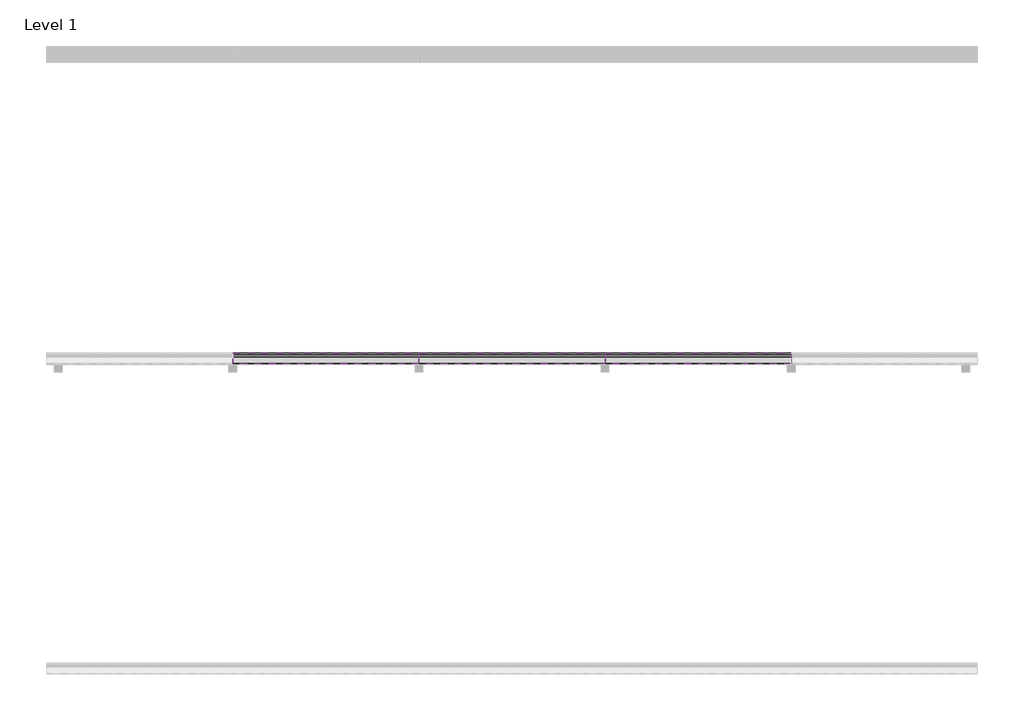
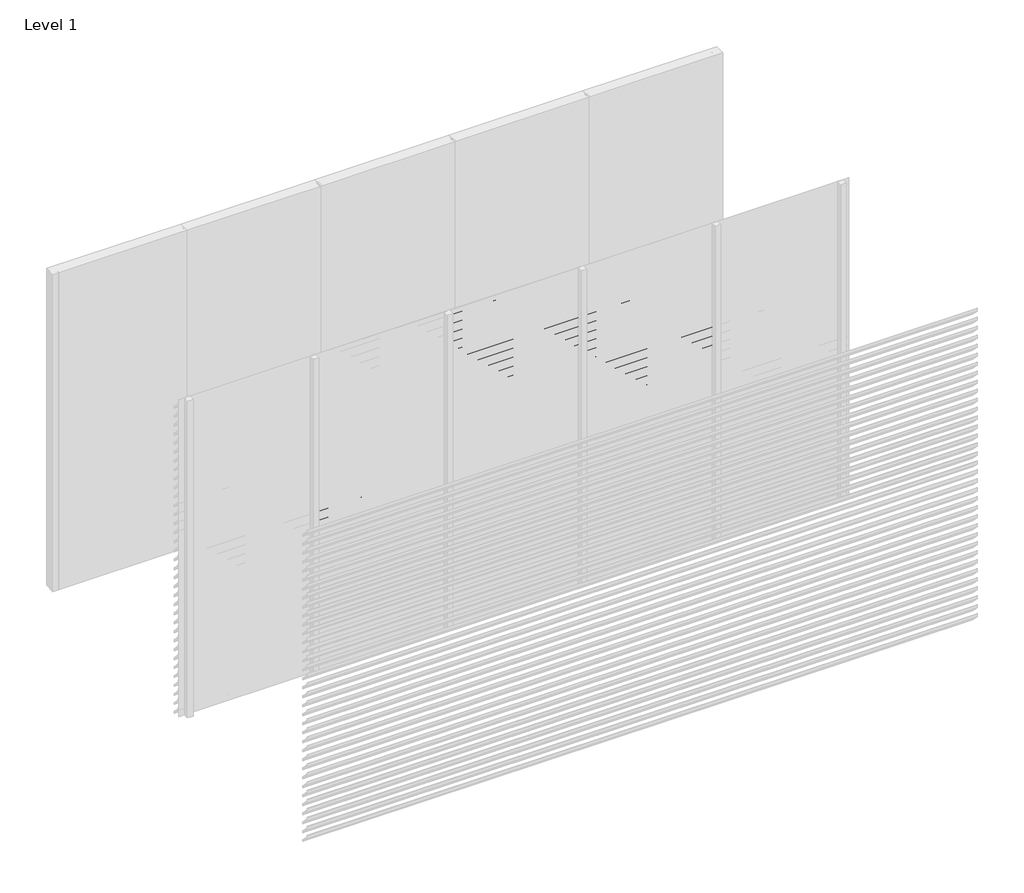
# One storey, part 5 of 10: 90 proxies.
"""IFC4 building model written with IfcOpenShell, lengths in millimetres."""

from ifc_helpers import new_model, si_unit, frame, origin, place, context, project, spatial, polyline, outline, extrude, element, save

model = new_model("IFC4")

# Units and contexts
model_context = context("Model", 3, world=origin())
ifc_project = project(units=[si_unit("LENGTHUNIT", "METRE", prefix="MILLI")], contexts=[model_context])

# Site, building, storey
site = spatial("IfcSite", under=ifc_project)
building = spatial("IfcBuilding", under=site)
storey = spatial("IfcBuildingStorey", under=building, Name="Level 1", Elevation=0.0)

# Proxies
placement = place(None, origin())
element("IfcBuildingElementProxy", 1, Name="Wall Sweeps", at=placement, inside=storey, context=model_context, shape_type="SweptSolid", body=[
    extrude(outline(polyline([(-11995.0, 2125.0), (-11995.0, 2112.0), (-11927.0, 2044.0), (-11927.0, 2026.0), (-11997.0, 2096.0), (-11997.0, 2125.0), (-11995.0, 2125.0)])), frame((1200.0, 0.0, 0.0), z_axis=(1.0, 0.0, 0.0), x_axis=(0.0, 1.0, 0.0)), (0.0, 0.0, 1.0), 1200.0),
])
element("IfcBuildingElementProxy", 2, Name="Wall Sweeps", at=placement, inside=storey, context=model_context, shape_type="SweptSolid", body=[
    extrude(outline(polyline([(-11995.0, 2040.0), (-11995.0, 2027.0), (-11927.0, 1959.0), (-11927.0, 1941.0), (-11997.0, 2011.0), (-11997.0, 2040.0), (-11995.0, 2040.0)])), frame((1200.0, 0.0, 0.0), z_axis=(1.0, 0.0, 0.0), x_axis=(0.0, 1.0, 0.0)), (0.0, 0.0, 1.0), 1200.0),
])
element("IfcBuildingElementProxy", 3, Name="Wall Sweeps", at=placement, inside=storey, context=model_context, shape_type="SweptSolid", body=[
    extrude(outline(polyline([(-11995.0, 1955.0), (-11995.0, 1942.0), (-11927.0, 1874.0), (-11927.0, 1856.0), (-11997.0, 1926.0), (-11997.0, 1955.0), (-11995.0, 1955.0)])), frame((1200.0, 0.0, 0.0), z_axis=(1.0, 0.0, 0.0), x_axis=(0.0, 1.0, 0.0)), (0.0, 0.0, 1.0), 1200.0),
])
element("IfcBuildingElementProxy", 4, Name="Wall Sweeps", at=placement, inside=storey, context=model_context, shape_type="SweptSolid", body=[
    extrude(outline(polyline([(-11995.0, 1870.0), (-11995.0, 1857.0), (-11927.0, 1789.0), (-11927.0, 1771.0), (-11997.0, 1841.0), (-11997.0, 1870.0), (-11995.0, 1870.0)])), frame((1200.0, 0.0, 0.0), z_axis=(1.0, 0.0, 0.0), x_axis=(0.0, 1.0, 0.0)), (0.0, 0.0, 1.0), 1200.0),
])
element("IfcBuildingElementProxy", 5, Name="Wall Sweeps", at=placement, inside=storey, context=model_context, shape_type="SweptSolid", body=[
    extrude(outline(polyline([(-11995.0, 1785.0), (-11995.0, 1772.0), (-11927.0, 1704.0), (-11927.0, 1686.0), (-11997.0, 1756.0), (-11997.0, 1785.0), (-11995.0, 1785.0)])), frame((1200.0, 0.0, 0.0), z_axis=(1.0, 0.0, 0.0), x_axis=(0.0, 1.0, 0.0)), (0.0, 0.0, 1.0), 1200.0),
])
element("IfcBuildingElementProxy", 6, Name="Wall Sweeps", at=placement, inside=storey, context=model_context, shape_type="SweptSolid", body=[
    extrude(outline(polyline([(-11995.0, 1700.0), (-11995.0, 1687.0), (-11927.0, 1619.0), (-11927.0, 1601.0), (-11997.0, 1671.0), (-11997.0, 1700.0), (-11995.0, 1700.0)])), frame((1200.0, 0.0, 0.0), z_axis=(1.0, 0.0, 0.0), x_axis=(0.0, 1.0, 0.0)), (0.0, 0.0, 1.0), 1200.0),
])
element("IfcBuildingElementProxy", 7, Name="Wall Sweeps", at=placement, inside=storey, context=model_context, shape_type="SweptSolid", body=[
    extrude(outline(polyline([(-11995.0, 1615.0), (-11995.0, 1602.0), (-11927.0, 1534.0), (-11927.0, 1516.0), (-11997.0, 1586.0), (-11997.0, 1615.0), (-11995.0, 1615.0)])), frame((1200.0, 0.0, 0.0), z_axis=(1.0, 0.0, 0.0), x_axis=(0.0, 1.0, 0.0)), (0.0, 0.0, 1.0), 1200.0),
])
element("IfcBuildingElementProxy", 8, Name="Wall Sweeps", at=placement, inside=storey, context=model_context, shape_type="SweptSolid", body=[
    extrude(outline(polyline([(-11995.0, 1530.0), (-11995.0, 1517.0), (-11927.0, 1449.0), (-11927.0, 1431.0), (-11997.0, 1501.0), (-11997.0, 1530.0), (-11995.0, 1530.0)])), frame((1200.0, 0.0, 0.0), z_axis=(1.0, 0.0, 0.0), x_axis=(0.0, 1.0, 0.0)), (0.0, 0.0, 1.0), 1200.0),
])
element("IfcBuildingElementProxy", 9, Name="Wall Sweeps", at=placement, inside=storey, context=model_context, shape_type="SweptSolid", body=[
    extrude(outline(polyline([(-11995.0, 1445.0), (-11995.0, 1432.0), (-11927.0, 1364.0), (-11927.0, 1346.0), (-11997.0, 1416.0), (-11997.0, 1445.0), (-11995.0, 1445.0)])), frame((1200.0, 0.0, 0.0), z_axis=(1.0, 0.0, 0.0), x_axis=(0.0, 1.0, 0.0)), (0.0, 0.0, 1.0), 1200.0),
])
element("IfcBuildingElementProxy", 10, Name="Wall Sweeps", at=placement, inside=storey, context=model_context, shape_type="SweptSolid", body=[
    extrude(outline(polyline([(-11995.0, 1360.0), (-11995.0, 1347.0), (-11927.0, 1279.0), (-11927.0, 1261.0), (-11997.0, 1331.0), (-11997.0, 1360.0), (-11995.0, 1360.0)])), frame((1200.0, 0.0, 0.0), z_axis=(1.0, 0.0, 0.0), x_axis=(0.0, 1.0, 0.0)), (0.0, 0.0, 1.0), 1200.0),
])
element("IfcBuildingElementProxy", 11, Name="Wall Sweeps", at=placement, inside=storey, context=model_context, shape_type="SweptSolid", body=[
    extrude(outline(polyline([(-11995.0, 1275.0), (-11995.0, 1262.0), (-11927.0, 1194.0), (-11927.0, 1176.0), (-11997.0, 1246.0), (-11997.0, 1275.0), (-11995.0, 1275.0)])), frame((1200.0, 0.0, 0.0), z_axis=(1.0, 0.0, 0.0), x_axis=(0.0, 1.0, 0.0)), (0.0, 0.0, 1.0), 1200.0),
])
element("IfcBuildingElementProxy", 12, Name="Wall Sweeps", at=placement, inside=storey, context=model_context, shape_type="SweptSolid", body=[
    extrude(outline(polyline([(-11995.0, 1190.0), (-11995.0, 1177.0), (-11927.0, 1109.0), (-11927.0, 1091.0), (-11997.0, 1161.0), (-11997.0, 1190.0), (-11995.0, 1190.0)])), frame((1200.0, 0.0, 0.0), z_axis=(1.0, 0.0, 0.0), x_axis=(0.0, 1.0, 0.0)), (0.0, 0.0, 1.0), 1200.0),
])
element("IfcBuildingElementProxy", 13, Name="Wall Sweeps", at=placement, inside=storey, context=model_context, shape_type="SweptSolid", body=[
    extrude(outline(polyline([(-11995.0, 1105.0), (-11995.0, 1092.0), (-11927.0, 1024.0), (-11927.0, 1006.0), (-11997.0, 1076.0), (-11997.0, 1105.0), (-11995.0, 1105.0)])), frame((1200.0, 0.0, 0.0), z_axis=(1.0, 0.0, 0.0), x_axis=(0.0, 1.0, 0.0)), (0.0, 0.0, 1.0), 1200.0),
])
element("IfcBuildingElementProxy", 14, Name="Wall Sweeps", at=placement, inside=storey, context=model_context, shape_type="SweptSolid", body=[
    extrude(outline(polyline([(-11995.0, 1020.0), (-11995.0, 1007.0), (-11927.0, 939.0), (-11927.0, 921.0), (-11997.0, 991.0), (-11997.0, 1020.0), (-11995.0, 1020.0)])), frame((1200.0, 0.0, 0.0), z_axis=(1.0, 0.0, 0.0), x_axis=(0.0, 1.0, 0.0)), (0.0, 0.0, 1.0), 1200.0),
])
element("IfcBuildingElementProxy", 15, Name="Wall Sweeps", at=placement, inside=storey, context=model_context, shape_type="SweptSolid", body=[
    extrude(outline(polyline([(-11995.0, 935.0), (-11995.0, 922.0), (-11927.0, 854.0), (-11927.0, 836.0), (-11997.0, 906.0), (-11997.0, 935.0), (-11995.0, 935.0)])), frame((1200.0, 0.0, 0.0), z_axis=(1.0, 0.0, 0.0), x_axis=(0.0, 1.0, 0.0)), (0.0, 0.0, 1.0), 1200.0),
])
element("IfcBuildingElementProxy", 16, Name="Wall Sweeps", at=placement, inside=storey, context=model_context, shape_type="SweptSolid", body=[
    extrude(outline(polyline([(-11995.0, 850.0), (-11995.0, 837.0), (-11927.0, 769.0), (-11927.0, 751.0), (-11997.0, 821.0), (-11997.0, 850.0), (-11995.0, 850.0)])), frame((1200.0, 0.0, 0.0), z_axis=(1.0, 0.0, 0.0), x_axis=(0.0, 1.0, 0.0)), (0.0, 0.0, 1.0), 1200.0),
])
element("IfcBuildingElementProxy", 17, Name="Wall Sweeps", at=placement, inside=storey, context=model_context, shape_type="SweptSolid", body=[
    extrude(outline(polyline([(-11995.0, 765.0), (-11995.0, 752.0), (-11927.0, 684.0), (-11927.0, 666.0), (-11997.0, 736.0), (-11997.0, 765.0), (-11995.0, 765.0)])), frame((1200.0, 0.0, 0.0), z_axis=(1.0, 0.0, 0.0), x_axis=(0.0, 1.0, 0.0)), (0.0, 0.0, 1.0), 1200.0),
])
element("IfcBuildingElementProxy", 18, Name="Wall Sweeps", at=placement, inside=storey, context=model_context, shape_type="SweptSolid", body=[
    extrude(outline(polyline([(-11995.0, 680.0), (-11995.0, 667.0), (-11927.0, 599.0), (-11927.0, 581.0), (-11997.0, 651.0), (-11997.0, 680.0), (-11995.0, 680.0)])), frame((1200.0, 0.0, 0.0), z_axis=(1.0, 0.0, 0.0), x_axis=(0.0, 1.0, 0.0)), (0.0, 0.0, 1.0), 1200.0),
])
element("IfcBuildingElementProxy", 19, Name="Wall Sweeps", at=placement, inside=storey, context=model_context, shape_type="SweptSolid", body=[
    extrude(outline(polyline([(-11995.0, 595.0), (-11995.0, 582.0), (-11927.0, 514.0), (-11927.0, 496.0), (-11997.0, 566.0), (-11997.0, 595.0), (-11995.0, 595.0)])), frame((1200.0, 0.0, 0.0), z_axis=(1.0, 0.0, 0.0), x_axis=(0.0, 1.0, 0.0)), (0.0, 0.0, 1.0), 1200.0),
])
element("IfcBuildingElementProxy", 20, Name="Wall Sweeps", at=placement, inside=storey, context=model_context, shape_type="SweptSolid", body=[
    extrude(outline(polyline([(-11995.0, 510.0), (-11995.0, 497.0), (-11927.0, 429.0), (-11927.0, 411.0), (-11997.0, 481.0), (-11997.0, 510.0), (-11995.0, 510.0)])), frame((1200.0, 0.0, 0.0), z_axis=(1.0, 0.0, 0.0), x_axis=(0.0, 1.0, 0.0)), (0.0, 0.0, 1.0), 1200.0),
])
element("IfcBuildingElementProxy", 21, Name="Wall Sweeps", at=placement, inside=storey, context=model_context, shape_type="SweptSolid", body=[
    extrude(outline(polyline([(-11995.0, 425.0), (-11995.0, 412.0), (-11927.0, 344.0), (-11927.0, 326.0), (-11997.0, 396.0), (-11997.0, 425.0), (-11995.0, 425.0)])), frame((1200.0, 0.0, 0.0), z_axis=(1.0, 0.0, 0.0), x_axis=(0.0, 1.0, 0.0)), (0.0, 0.0, 1.0), 1200.0),
])
element("IfcBuildingElementProxy", 22, Name="Wall Sweeps", at=placement, inside=storey, context=model_context, shape_type="SweptSolid", body=[
    extrude(outline(polyline([(-11995.0, 340.0), (-11995.0, 327.0), (-11927.0, 259.0), (-11927.0, 241.0), (-11997.0, 311.0), (-11997.0, 340.0), (-11995.0, 340.0)])), frame((1200.0, 0.0, 0.0), z_axis=(1.0, 0.0, 0.0), x_axis=(0.0, 1.0, 0.0)), (0.0, 0.0, 1.0), 1200.0),
])
element("IfcBuildingElementProxy", 23, Name="Wall Sweeps", at=placement, inside=storey, context=model_context, shape_type="SweptSolid", body=[
    extrude(outline(polyline([(-11995.0, 255.0), (-11995.0, 242.0), (-11927.0, 174.0), (-11927.0, 156.0), (-11997.0, 226.0), (-11997.0, 255.0), (-11995.0, 255.0)])), frame((1200.0, 0.0, 0.0), z_axis=(1.0, 0.0, 0.0), x_axis=(0.0, 1.0, 0.0)), (0.0, 0.0, 1.0), 1200.0),
])
element("IfcBuildingElementProxy", 24, Name="Wall Sweeps", at=placement, inside=storey, context=model_context, shape_type="SweptSolid", body=[
    extrude(outline(polyline([(-11995.0, 170.0), (-11995.0, 157.0), (-11927.0, 89.0), (-11927.0, 71.0), (-11997.0, 141.0), (-11997.0, 170.0), (-11995.0, 170.0)])), frame((1200.0, 0.0, 0.0), z_axis=(1.0, 0.0, 0.0), x_axis=(0.0, 1.0, 0.0)), (0.0, 0.0, 1.0), 1200.0),
])
element("IfcBuildingElementProxy", 25, Name="Wall Sweeps", at=placement, inside=storey, context=model_context, shape_type="SweptSolid", body=[
    extrude(outline(polyline([(-11995.0, 85.0), (-11995.0, 72.0), (-11927.0, 4.0), (-11927.0, -14.0), (-11997.0, 56.0), (-11997.0, 85.0), (-11995.0, 85.0)])), frame((1200.0, 0.0, 0.0), z_axis=(1.0, 0.0, 0.0), x_axis=(0.0, 1.0, 0.0)), (0.0, 0.0, 1.0), 1200.0),
])
element("IfcBuildingElementProxy", 26, Name="Wall Sweeps", at=placement, inside=storey, context=model_context, shape_type="SweptSolid", body=[
    extrude(outline(polyline([(-11995.0, 2975.0), (-11995.0, 2962.0), (-11927.0, 2894.0), (-11927.0, 2876.0), (-11997.0, 2946.0), (-11997.0, 2975.0), (-11995.0, 2975.0)])), frame((2400.0, 0.0, 0.0), z_axis=(1.0, 0.0, 0.0), x_axis=(0.0, 1.0, 0.0)), (0.0, 0.0, 1.0), 1200.0),
])
element("IfcBuildingElementProxy", 27, Name="Wall Sweeps", at=placement, inside=storey, context=model_context, shape_type="SweptSolid", body=[
    extrude(outline(polyline([(-11995.0, 2890.0), (-11995.0, 2877.0), (-11927.0, 2809.0), (-11927.0, 2791.0), (-11997.0, 2861.0), (-11997.0, 2890.0), (-11995.0, 2890.0)])), frame((2400.0, 0.0, 0.0), z_axis=(1.0, 0.0, 0.0), x_axis=(0.0, 1.0, 0.0)), (0.0, 0.0, 1.0), 1200.0),
])
element("IfcBuildingElementProxy", 28, Name="Wall Sweeps", at=placement, inside=storey, context=model_context, shape_type="SweptSolid", body=[
    extrude(outline(polyline([(-11995.0, 2805.0), (-11995.0, 2792.0), (-11927.0, 2724.0), (-11927.0, 2706.0), (-11997.0, 2776.0), (-11997.0, 2805.0), (-11995.0, 2805.0)])), frame((2400.0, 0.0, 0.0), z_axis=(1.0, 0.0, 0.0), x_axis=(0.0, 1.0, 0.0)), (0.0, 0.0, 1.0), 1200.0),
])
element("IfcBuildingElementProxy", 29, Name="Wall Sweeps", at=placement, inside=storey, context=model_context, shape_type="SweptSolid", body=[
    extrude(outline(polyline([(-11995.0, 2720.0), (-11995.0, 2707.0), (-11927.0, 2639.0), (-11927.0, 2621.0), (-11997.0, 2691.0), (-11997.0, 2720.0), (-11995.0, 2720.0)])), frame((2400.0, 0.0, 0.0), z_axis=(1.0, 0.0, 0.0), x_axis=(0.0, 1.0, 0.0)), (0.0, 0.0, 1.0), 1200.0),
])
element("IfcBuildingElementProxy", 30, Name="Wall Sweeps", at=placement, inside=storey, context=model_context, shape_type="SweptSolid", body=[
    extrude(outline(polyline([(-11995.0, 2635.0), (-11995.0, 2622.0), (-11927.0, 2554.0), (-11927.0, 2536.0), (-11997.0, 2606.0), (-11997.0, 2635.0), (-11995.0, 2635.0)])), frame((2400.0, 0.0, 0.0), z_axis=(1.0, 0.0, 0.0), x_axis=(0.0, 1.0, 0.0)), (0.0, 0.0, 1.0), 1200.0),
])
element("IfcBuildingElementProxy", 31, Name="Wall Sweeps", at=placement, inside=storey, context=model_context, shape_type="SweptSolid", body=[
    extrude(outline(polyline([(-11995.0, 2550.0), (-11995.0, 2537.0), (-11927.0, 2469.0), (-11927.0, 2451.0), (-11997.0, 2521.0), (-11997.0, 2550.0), (-11995.0, 2550.0)])), frame((2400.0, 0.0, 0.0), z_axis=(1.0, 0.0, 0.0), x_axis=(0.0, 1.0, 0.0)), (0.0, 0.0, 1.0), 1200.0),
])
element("IfcBuildingElementProxy", 32, Name="Wall Sweeps", at=placement, inside=storey, context=model_context, shape_type="SweptSolid", body=[
    extrude(outline(polyline([(-11995.0, 2465.0), (-11995.0, 2452.0), (-11927.0, 2384.0), (-11927.0, 2366.0), (-11997.0, 2436.0), (-11997.0, 2465.0), (-11995.0, 2465.0)])), frame((2400.0, 0.0, 0.0), z_axis=(1.0, 0.0, 0.0), x_axis=(0.0, 1.0, 0.0)), (0.0, 0.0, 1.0), 1200.0),
])
element("IfcBuildingElementProxy", 33, Name="Wall Sweeps", at=placement, inside=storey, context=model_context, shape_type="SweptSolid", body=[
    extrude(outline(polyline([(-11995.0, 2380.0), (-11995.0, 2367.0), (-11927.0, 2299.0), (-11927.0, 2281.0), (-11997.0, 2351.0), (-11997.0, 2380.0), (-11995.0, 2380.0)])), frame((2400.0, 0.0, 0.0), z_axis=(1.0, 0.0, 0.0), x_axis=(0.0, 1.0, 0.0)), (0.0, 0.0, 1.0), 1200.0),
])
element("IfcBuildingElementProxy", 34, Name="Wall Sweeps", at=placement, inside=storey, context=model_context, shape_type="SweptSolid", body=[
    extrude(outline(polyline([(-11995.0, 2295.0), (-11995.0, 2282.0), (-11927.0, 2214.0), (-11927.0, 2196.0), (-11997.0, 2266.0), (-11997.0, 2295.0), (-11995.0, 2295.0)])), frame((2400.0, 0.0, 0.0), z_axis=(1.0, 0.0, 0.0), x_axis=(0.0, 1.0, 0.0)), (0.0, 0.0, 1.0), 1200.0),
])
element("IfcBuildingElementProxy", 35, Name="Wall Sweeps", at=placement, inside=storey, context=model_context, shape_type="SweptSolid", body=[
    extrude(outline(polyline([(-11995.0, 2210.0), (-11995.0, 2197.0), (-11927.0, 2129.0), (-11927.0, 2111.0), (-11997.0, 2181.0), (-11997.0, 2210.0), (-11995.0, 2210.0)])), frame((2400.0, 0.0, 0.0), z_axis=(1.0, 0.0, 0.0), x_axis=(0.0, 1.0, 0.0)), (0.0, 0.0, 1.0), 1200.0),
])
element("IfcBuildingElementProxy", 36, Name="Wall Sweeps", at=placement, inside=storey, context=model_context, shape_type="SweptSolid", body=[
    extrude(outline(polyline([(-11995.0, 2125.0), (-11995.0, 2112.0), (-11927.0, 2044.0), (-11927.0, 2026.0), (-11997.0, 2096.0), (-11997.0, 2125.0), (-11995.0, 2125.0)])), frame((2400.0, 0.0, 0.0), z_axis=(1.0, 0.0, 0.0), x_axis=(0.0, 1.0, 0.0)), (0.0, 0.0, 1.0), 1200.0),
])
element("IfcBuildingElementProxy", 37, Name="Wall Sweeps", at=placement, inside=storey, context=model_context, shape_type="SweptSolid", body=[
    extrude(outline(polyline([(-11995.0, 2040.0), (-11995.0, 2027.0), (-11927.0, 1959.0), (-11927.0, 1941.0), (-11997.0, 2011.0), (-11997.0, 2040.0), (-11995.0, 2040.0)])), frame((2400.0, 0.0, 0.0), z_axis=(1.0, 0.0, 0.0), x_axis=(0.0, 1.0, 0.0)), (0.0, 0.0, 1.0), 1200.0),
])
element("IfcBuildingElementProxy", 38, Name="Wall Sweeps", at=placement, inside=storey, context=model_context, shape_type="SweptSolid", body=[
    extrude(outline(polyline([(-11995.0, 1955.0), (-11995.0, 1942.0), (-11927.0, 1874.0), (-11927.0, 1856.0), (-11997.0, 1926.0), (-11997.0, 1955.0), (-11995.0, 1955.0)])), frame((2400.0, 0.0, 0.0), z_axis=(1.0, 0.0, 0.0), x_axis=(0.0, 1.0, 0.0)), (0.0, 0.0, 1.0), 1200.0),
])
element("IfcBuildingElementProxy", 39, Name="Wall Sweeps", at=placement, inside=storey, context=model_context, shape_type="SweptSolid", body=[
    extrude(outline(polyline([(-11995.0, 1870.0), (-11995.0, 1857.0), (-11927.0, 1789.0), (-11927.0, 1771.0), (-11997.0, 1841.0), (-11997.0, 1870.0), (-11995.0, 1870.0)])), frame((2400.0, 0.0, 0.0), z_axis=(1.0, 0.0, 0.0), x_axis=(0.0, 1.0, 0.0)), (0.0, 0.0, 1.0), 1200.0),
])
element("IfcBuildingElementProxy", 40, Name="Wall Sweeps", at=placement, inside=storey, context=model_context, shape_type="SweptSolid", body=[
    extrude(outline(polyline([(-11995.0, 1785.0), (-11995.0, 1772.0), (-11927.0, 1704.0), (-11927.0, 1686.0), (-11997.0, 1756.0), (-11997.0, 1785.0), (-11995.0, 1785.0)])), frame((2400.0, 0.0, 0.0), z_axis=(1.0, 0.0, 0.0), x_axis=(0.0, 1.0, 0.0)), (0.0, 0.0, 1.0), 1200.0),
])
element("IfcBuildingElementProxy", 41, Name="Wall Sweeps", at=placement, inside=storey, context=model_context, shape_type="SweptSolid", body=[
    extrude(outline(polyline([(-11995.0, 1700.0), (-11995.0, 1687.0), (-11927.0, 1619.0), (-11927.0, 1601.0), (-11997.0, 1671.0), (-11997.0, 1700.0), (-11995.0, 1700.0)])), frame((2400.0, 0.0, 0.0), z_axis=(1.0, 0.0, 0.0), x_axis=(0.0, 1.0, 0.0)), (0.0, 0.0, 1.0), 1200.0),
])
element("IfcBuildingElementProxy", 42, Name="Wall Sweeps", at=placement, inside=storey, context=model_context, shape_type="SweptSolid", body=[
    extrude(outline(polyline([(-11995.0, 1615.0), (-11995.0, 1602.0), (-11927.0, 1534.0), (-11927.0, 1516.0), (-11997.0, 1586.0), (-11997.0, 1615.0), (-11995.0, 1615.0)])), frame((2400.0, 0.0, 0.0), z_axis=(1.0, 0.0, 0.0), x_axis=(0.0, 1.0, 0.0)), (0.0, 0.0, 1.0), 1200.0),
])
element("IfcBuildingElementProxy", 43, Name="Wall Sweeps", at=placement, inside=storey, context=model_context, shape_type="SweptSolid", body=[
    extrude(outline(polyline([(-11995.0, 1530.0), (-11995.0, 1517.0), (-11927.0, 1449.0), (-11927.0, 1431.0), (-11997.0, 1501.0), (-11997.0, 1530.0), (-11995.0, 1530.0)])), frame((2400.0, 0.0, 0.0), z_axis=(1.0, 0.0, 0.0), x_axis=(0.0, 1.0, 0.0)), (0.0, 0.0, 1.0), 1200.0),
])
element("IfcBuildingElementProxy", 44, Name="Wall Sweeps", at=placement, inside=storey, context=model_context, shape_type="SweptSolid", body=[
    extrude(outline(polyline([(-11995.0, 1445.0), (-11995.0, 1432.0), (-11927.0, 1364.0), (-11927.0, 1346.0), (-11997.0, 1416.0), (-11997.0, 1445.0), (-11995.0, 1445.0)])), frame((2400.0, 0.0, 0.0), z_axis=(1.0, 0.0, 0.0), x_axis=(0.0, 1.0, 0.0)), (0.0, 0.0, 1.0), 1200.0),
])
element("IfcBuildingElementProxy", 45, Name="Wall Sweeps", at=placement, inside=storey, context=model_context, shape_type="SweptSolid", body=[
    extrude(outline(polyline([(-11995.0, 1360.0), (-11995.0, 1347.0), (-11927.0, 1279.0), (-11927.0, 1261.0), (-11997.0, 1331.0), (-11997.0, 1360.0), (-11995.0, 1360.0)])), frame((2400.0, 0.0, 0.0), z_axis=(1.0, 0.0, 0.0), x_axis=(0.0, 1.0, 0.0)), (0.0, 0.0, 1.0), 1200.0),
])
element("IfcBuildingElementProxy", 46, Name="Wall Sweeps", at=placement, inside=storey, context=model_context, shape_type="SweptSolid", body=[
    extrude(outline(polyline([(-11995.0, 1275.0), (-11995.0, 1262.0), (-11927.0, 1194.0), (-11927.0, 1176.0), (-11997.0, 1246.0), (-11997.0, 1275.0), (-11995.0, 1275.0)])), frame((2400.0, 0.0, 0.0), z_axis=(1.0, 0.0, 0.0), x_axis=(0.0, 1.0, 0.0)), (0.0, 0.0, 1.0), 1200.0),
])
element("IfcBuildingElementProxy", 47, Name="Wall Sweeps", at=placement, inside=storey, context=model_context, shape_type="SweptSolid", body=[
    extrude(outline(polyline([(-11995.0, 1190.0), (-11995.0, 1177.0), (-11927.0, 1109.0), (-11927.0, 1091.0), (-11997.0, 1161.0), (-11997.0, 1190.0), (-11995.0, 1190.0)])), frame((2400.0, 0.0, 0.0), z_axis=(1.0, 0.0, 0.0), x_axis=(0.0, 1.0, 0.0)), (0.0, 0.0, 1.0), 1200.0),
])
element("IfcBuildingElementProxy", 48, Name="Wall Sweeps", at=placement, inside=storey, context=model_context, shape_type="SweptSolid", body=[
    extrude(outline(polyline([(-11995.0, 1105.0), (-11995.0, 1092.0), (-11927.0, 1024.0), (-11927.0, 1006.0), (-11997.0, 1076.0), (-11997.0, 1105.0), (-11995.0, 1105.0)])), frame((2400.0, 0.0, 0.0), z_axis=(1.0, 0.0, 0.0), x_axis=(0.0, 1.0, 0.0)), (0.0, 0.0, 1.0), 1200.0),
])
element("IfcBuildingElementProxy", 49, Name="Wall Sweeps", at=placement, inside=storey, context=model_context, shape_type="SweptSolid", body=[
    extrude(outline(polyline([(-11995.0, 1020.0), (-11995.0, 1007.0), (-11927.0, 939.0), (-11927.0, 921.0), (-11997.0, 991.0), (-11997.0, 1020.0), (-11995.0, 1020.0)])), frame((2400.0, 0.0, 0.0), z_axis=(1.0, 0.0, 0.0), x_axis=(0.0, 1.0, 0.0)), (0.0, 0.0, 1.0), 1200.0),
])
element("IfcBuildingElementProxy", 50, Name="Wall Sweeps", at=placement, inside=storey, context=model_context, shape_type="SweptSolid", body=[
    extrude(outline(polyline([(-11995.0, 935.0), (-11995.0, 922.0), (-11927.0, 854.0), (-11927.0, 836.0), (-11997.0, 906.0), (-11997.0, 935.0), (-11995.0, 935.0)])), frame((2400.0, 0.0, 0.0), z_axis=(1.0, 0.0, 0.0), x_axis=(0.0, 1.0, 0.0)), (0.0, 0.0, 1.0), 1200.0),
])
element("IfcBuildingElementProxy", 51, Name="Wall Sweeps", at=placement, inside=storey, context=model_context, shape_type="SweptSolid", body=[
    extrude(outline(polyline([(-11995.0, 850.0), (-11995.0, 837.0), (-11927.0, 769.0), (-11927.0, 751.0), (-11997.0, 821.0), (-11997.0, 850.0), (-11995.0, 850.0)])), frame((2400.0, 0.0, 0.0), z_axis=(1.0, 0.0, 0.0), x_axis=(0.0, 1.0, 0.0)), (0.0, 0.0, 1.0), 1200.0),
])
element("IfcBuildingElementProxy", 52, Name="Wall Sweeps", at=placement, inside=storey, context=model_context, shape_type="SweptSolid", body=[
    extrude(outline(polyline([(-11995.0, 765.0), (-11995.0, 752.0), (-11927.0, 684.0), (-11927.0, 666.0), (-11997.0, 736.0), (-11997.0, 765.0), (-11995.0, 765.0)])), frame((2400.0, 0.0, 0.0), z_axis=(1.0, 0.0, 0.0), x_axis=(0.0, 1.0, 0.0)), (0.0, 0.0, 1.0), 1200.0),
])
element("IfcBuildingElementProxy", 53, Name="Wall Sweeps", at=placement, inside=storey, context=model_context, shape_type="SweptSolid", body=[
    extrude(outline(polyline([(-11995.0, 680.0), (-11995.0, 667.0), (-11927.0, 599.0), (-11927.0, 581.0), (-11997.0, 651.0), (-11997.0, 680.0), (-11995.0, 680.0)])), frame((2400.0, 0.0, 0.0), z_axis=(1.0, 0.0, 0.0), x_axis=(0.0, 1.0, 0.0)), (0.0, 0.0, 1.0), 1200.0),
])
element("IfcBuildingElementProxy", 54, Name="Wall Sweeps", at=placement, inside=storey, context=model_context, shape_type="SweptSolid", body=[
    extrude(outline(polyline([(-11995.0, 595.0), (-11995.0, 582.0), (-11927.0, 514.0), (-11927.0, 496.0), (-11997.0, 566.0), (-11997.0, 595.0), (-11995.0, 595.0)])), frame((2400.0, 0.0, 0.0), z_axis=(1.0, 0.0, 0.0), x_axis=(0.0, 1.0, 0.0)), (0.0, 0.0, 1.0), 1200.0),
])
element("IfcBuildingElementProxy", 55, Name="Wall Sweeps", at=placement, inside=storey, context=model_context, shape_type="SweptSolid", body=[
    extrude(outline(polyline([(-11995.0, 510.0), (-11995.0, 497.0), (-11927.0, 429.0), (-11927.0, 411.0), (-11997.0, 481.0), (-11997.0, 510.0), (-11995.0, 510.0)])), frame((2400.0, 0.0, 0.0), z_axis=(1.0, 0.0, 0.0), x_axis=(0.0, 1.0, 0.0)), (0.0, 0.0, 1.0), 1200.0),
])
element("IfcBuildingElementProxy", 56, Name="Wall Sweeps", at=placement, inside=storey, context=model_context, shape_type="SweptSolid", body=[
    extrude(outline(polyline([(-11995.0, 425.0), (-11995.0, 412.0), (-11927.0, 344.0), (-11927.0, 326.0), (-11997.0, 396.0), (-11997.0, 425.0), (-11995.0, 425.0)])), frame((2400.0, 0.0, 0.0), z_axis=(1.0, 0.0, 0.0), x_axis=(0.0, 1.0, 0.0)), (0.0, 0.0, 1.0), 1200.0),
])
element("IfcBuildingElementProxy", 57, Name="Wall Sweeps", at=placement, inside=storey, context=model_context, shape_type="SweptSolid", body=[
    extrude(outline(polyline([(-11995.0, 340.0), (-11995.0, 327.0), (-11927.0, 259.0), (-11927.0, 241.0), (-11997.0, 311.0), (-11997.0, 340.0), (-11995.0, 340.0)])), frame((2400.0, 0.0, 0.0), z_axis=(1.0, 0.0, 0.0), x_axis=(0.0, 1.0, 0.0)), (0.0, 0.0, 1.0), 1200.0),
])
element("IfcBuildingElementProxy", 58, Name="Wall Sweeps", at=placement, inside=storey, context=model_context, shape_type="SweptSolid", body=[
    extrude(outline(polyline([(-11995.0, 255.0), (-11995.0, 242.0), (-11927.0, 174.0), (-11927.0, 156.0), (-11997.0, 226.0), (-11997.0, 255.0), (-11995.0, 255.0)])), frame((2400.0, 0.0, 0.0), z_axis=(1.0, 0.0, 0.0), x_axis=(0.0, 1.0, 0.0)), (0.0, 0.0, 1.0), 1200.0),
])
element("IfcBuildingElementProxy", 59, Name="Wall Sweeps", at=placement, inside=storey, context=model_context, shape_type="SweptSolid", body=[
    extrude(outline(polyline([(-11995.0, 170.0), (-11995.0, 157.0), (-11927.0, 89.0), (-11927.0, 71.0), (-11997.0, 141.0), (-11997.0, 170.0), (-11995.0, 170.0)])), frame((2400.0, 0.0, 0.0), z_axis=(1.0, 0.0, 0.0), x_axis=(0.0, 1.0, 0.0)), (0.0, 0.0, 1.0), 1200.0),
])
element("IfcBuildingElementProxy", 60, Name="Wall Sweeps", at=placement, inside=storey, context=model_context, shape_type="SweptSolid", body=[
    extrude(outline(polyline([(-11995.0, 85.0), (-11995.0, 72.0), (-11927.0, 4.0), (-11927.0, -14.0), (-11997.0, 56.0), (-11997.0, 85.0), (-11995.0, 85.0)])), frame((2400.0, 0.0, 0.0), z_axis=(1.0, 0.0, 0.0), x_axis=(0.0, 1.0, 0.0)), (0.0, 0.0, 1.0), 1200.0),
])
element("IfcBuildingElementProxy", 61, Name="Wall Sweeps", at=placement, inside=storey, context=model_context, shape_type="SweptSolid", body=[
    extrude(outline(polyline([(-11995.0, 2975.0), (-11995.0, 2962.0), (-11927.0, 2894.0), (-11927.0, 2876.0), (-11997.0, 2946.0), (-11997.0, 2975.0), (-11995.0, 2975.0)])), frame((3600.0, 0.0, 0.0), z_axis=(1.0, 0.0, 0.0), x_axis=(0.0, 1.0, 0.0)), (0.0, 0.0, 1.0), 1200.0),
])
element("IfcBuildingElementProxy", 62, Name="Wall Sweeps", at=placement, inside=storey, context=model_context, shape_type="SweptSolid", body=[
    extrude(outline(polyline([(-11995.0, 2890.0), (-11995.0, 2877.0), (-11927.0, 2809.0), (-11927.0, 2791.0), (-11997.0, 2861.0), (-11997.0, 2890.0), (-11995.0, 2890.0)])), frame((3600.0, 0.0, 0.0), z_axis=(1.0, 0.0, 0.0), x_axis=(0.0, 1.0, 0.0)), (0.0, 0.0, 1.0), 1200.0),
])
element("IfcBuildingElementProxy", 63, Name="Wall Sweeps", at=placement, inside=storey, context=model_context, shape_type="SweptSolid", body=[
    extrude(outline(polyline([(-11995.0, 2805.0), (-11995.0, 2792.0), (-11927.0, 2724.0), (-11927.0, 2706.0), (-11997.0, 2776.0), (-11997.0, 2805.0), (-11995.0, 2805.0)])), frame((3600.0, 0.0, 0.0), z_axis=(1.0, 0.0, 0.0), x_axis=(0.0, 1.0, 0.0)), (0.0, 0.0, 1.0), 1200.0),
])
element("IfcBuildingElementProxy", 64, Name="Wall Sweeps", at=placement, inside=storey, context=model_context, shape_type="SweptSolid", body=[
    extrude(outline(polyline([(-11995.0, 2720.0), (-11995.0, 2707.0), (-11927.0, 2639.0), (-11927.0, 2621.0), (-11997.0, 2691.0), (-11997.0, 2720.0), (-11995.0, 2720.0)])), frame((3600.0, 0.0, 0.0), z_axis=(1.0, 0.0, 0.0), x_axis=(0.0, 1.0, 0.0)), (0.0, 0.0, 1.0), 1200.0),
])
element("IfcBuildingElementProxy", 65, Name="Wall Sweeps", at=placement, inside=storey, context=model_context, shape_type="SweptSolid", body=[
    extrude(outline(polyline([(-11995.0, 2635.0), (-11995.0, 2622.0), (-11927.0, 2554.0), (-11927.0, 2536.0), (-11997.0, 2606.0), (-11997.0, 2635.0), (-11995.0, 2635.0)])), frame((3600.0, 0.0, 0.0), z_axis=(1.0, 0.0, 0.0), x_axis=(0.0, 1.0, 0.0)), (0.0, 0.0, 1.0), 1200.0),
])
element("IfcBuildingElementProxy", 66, Name="Wall Sweeps", at=placement, inside=storey, context=model_context, shape_type="SweptSolid", body=[
    extrude(outline(polyline([(-11995.0, 2550.0), (-11995.0, 2537.0), (-11927.0, 2469.0), (-11927.0, 2451.0), (-11997.0, 2521.0), (-11997.0, 2550.0), (-11995.0, 2550.0)])), frame((3600.0, 0.0, 0.0), z_axis=(1.0, 0.0, 0.0), x_axis=(0.0, 1.0, 0.0)), (0.0, 0.0, 1.0), 1200.0),
])
element("IfcBuildingElementProxy", 67, Name="Wall Sweeps", at=placement, inside=storey, context=model_context, shape_type="SweptSolid", body=[
    extrude(outline(polyline([(-11995.0, 2465.0), (-11995.0, 2452.0), (-11927.0, 2384.0), (-11927.0, 2366.0), (-11997.0, 2436.0), (-11997.0, 2465.0), (-11995.0, 2465.0)])), frame((3600.0, 0.0, 0.0), z_axis=(1.0, 0.0, 0.0), x_axis=(0.0, 1.0, 0.0)), (0.0, 0.0, 1.0), 1200.0),
])
element("IfcBuildingElementProxy", 68, Name="Wall Sweeps", at=placement, inside=storey, context=model_context, shape_type="SweptSolid", body=[
    extrude(outline(polyline([(-11995.0, 2380.0), (-11995.0, 2367.0), (-11927.0, 2299.0), (-11927.0, 2281.0), (-11997.0, 2351.0), (-11997.0, 2380.0), (-11995.0, 2380.0)])), frame((3600.0, 0.0, 0.0), z_axis=(1.0, 0.0, 0.0), x_axis=(0.0, 1.0, 0.0)), (0.0, 0.0, 1.0), 1200.0),
])
element("IfcBuildingElementProxy", 69, Name="Wall Sweeps", at=placement, inside=storey, context=model_context, shape_type="SweptSolid", body=[
    extrude(outline(polyline([(-11995.0, 2295.0), (-11995.0, 2282.0), (-11927.0, 2214.0), (-11927.0, 2196.0), (-11997.0, 2266.0), (-11997.0, 2295.0), (-11995.0, 2295.0)])), frame((3600.0, 0.0, 0.0), z_axis=(1.0, 0.0, 0.0), x_axis=(0.0, 1.0, 0.0)), (0.0, 0.0, 1.0), 1200.0),
])
element("IfcBuildingElementProxy", 70, Name="Wall Sweeps", at=placement, inside=storey, context=model_context, shape_type="SweptSolid", body=[
    extrude(outline(polyline([(-11995.0, 2210.0), (-11995.0, 2197.0), (-11927.0, 2129.0), (-11927.0, 2111.0), (-11997.0, 2181.0), (-11997.0, 2210.0), (-11995.0, 2210.0)])), frame((3600.0, 0.0, 0.0), z_axis=(1.0, 0.0, 0.0), x_axis=(0.0, 1.0, 0.0)), (0.0, 0.0, 1.0), 1200.0),
])
element("IfcBuildingElementProxy", 71, Name="Wall Sweeps", at=placement, inside=storey, context=model_context, shape_type="SweptSolid", body=[
    extrude(outline(polyline([(-11995.0, 2125.0), (-11995.0, 2112.0), (-11927.0, 2044.0), (-11927.0, 2026.0), (-11997.0, 2096.0), (-11997.0, 2125.0), (-11995.0, 2125.0)])), frame((3600.0, 0.0, 0.0), z_axis=(1.0, 0.0, 0.0), x_axis=(0.0, 1.0, 0.0)), (0.0, 0.0, 1.0), 1200.0),
])
element("IfcBuildingElementProxy", 72, Name="Wall Sweeps", at=placement, inside=storey, context=model_context, shape_type="SweptSolid", body=[
    extrude(outline(polyline([(-11995.0, 2040.0), (-11995.0, 2027.0), (-11927.0, 1959.0), (-11927.0, 1941.0), (-11997.0, 2011.0), (-11997.0, 2040.0), (-11995.0, 2040.0)])), frame((3600.0, 0.0, 0.0), z_axis=(1.0, 0.0, 0.0), x_axis=(0.0, 1.0, 0.0)), (0.0, 0.0, 1.0), 1200.0),
])
element("IfcBuildingElementProxy", 73, Name="Wall Sweeps", at=placement, inside=storey, context=model_context, shape_type="SweptSolid", body=[
    extrude(outline(polyline([(-11995.0, 1955.0), (-11995.0, 1942.0), (-11927.0, 1874.0), (-11927.0, 1856.0), (-11997.0, 1926.0), (-11997.0, 1955.0), (-11995.0, 1955.0)])), frame((3600.0, 0.0, 0.0), z_axis=(1.0, 0.0, 0.0), x_axis=(0.0, 1.0, 0.0)), (0.0, 0.0, 1.0), 1200.0),
])
element("IfcBuildingElementProxy", 74, Name="Wall Sweeps", at=placement, inside=storey, context=model_context, shape_type="SweptSolid", body=[
    extrude(outline(polyline([(-11995.0, 1870.0), (-11995.0, 1857.0), (-11927.0, 1789.0), (-11927.0, 1771.0), (-11997.0, 1841.0), (-11997.0, 1870.0), (-11995.0, 1870.0)])), frame((3600.0, 0.0, 0.0), z_axis=(1.0, 0.0, 0.0), x_axis=(0.0, 1.0, 0.0)), (0.0, 0.0, 1.0), 1200.0),
])
element("IfcBuildingElementProxy", 75, Name="Wall Sweeps", at=placement, inside=storey, context=model_context, shape_type="SweptSolid", body=[
    extrude(outline(polyline([(-11995.0, 1785.0), (-11995.0, 1772.0), (-11927.0, 1704.0), (-11927.0, 1686.0), (-11997.0, 1756.0), (-11997.0, 1785.0), (-11995.0, 1785.0)])), frame((3600.0, 0.0, 0.0), z_axis=(1.0, 0.0, 0.0), x_axis=(0.0, 1.0, 0.0)), (0.0, 0.0, 1.0), 1200.0),
])
element("IfcBuildingElementProxy", 76, Name="Wall Sweeps", at=placement, inside=storey, context=model_context, shape_type="SweptSolid", body=[
    extrude(outline(polyline([(-11995.0, 1700.0), (-11995.0, 1687.0), (-11927.0, 1619.0), (-11927.0, 1601.0), (-11997.0, 1671.0), (-11997.0, 1700.0), (-11995.0, 1700.0)])), frame((3600.0, 0.0, 0.0), z_axis=(1.0, 0.0, 0.0), x_axis=(0.0, 1.0, 0.0)), (0.0, 0.0, 1.0), 1200.0),
])
element("IfcBuildingElementProxy", 77, Name="Wall Sweeps", at=placement, inside=storey, context=model_context, shape_type="SweptSolid", body=[
    extrude(outline(polyline([(-11995.0, 1615.0), (-11995.0, 1602.0), (-11927.0, 1534.0), (-11927.0, 1516.0), (-11997.0, 1586.0), (-11997.0, 1615.0), (-11995.0, 1615.0)])), frame((3600.0, 0.0, 0.0), z_axis=(1.0, 0.0, 0.0), x_axis=(0.0, 1.0, 0.0)), (0.0, 0.0, 1.0), 1200.0),
])
element("IfcBuildingElementProxy", 78, Name="Wall Sweeps", at=placement, inside=storey, context=model_context, shape_type="SweptSolid", body=[
    extrude(outline(polyline([(-11995.0, 1530.0), (-11995.0, 1517.0), (-11927.0, 1449.0), (-11927.0, 1431.0), (-11997.0, 1501.0), (-11997.0, 1530.0), (-11995.0, 1530.0)])), frame((3600.0, 0.0, 0.0), z_axis=(1.0, 0.0, 0.0), x_axis=(0.0, 1.0, 0.0)), (0.0, 0.0, 1.0), 1200.0),
])
element("IfcBuildingElementProxy", 79, Name="Wall Sweeps", at=placement, inside=storey, context=model_context, shape_type="SweptSolid", body=[
    extrude(outline(polyline([(-11995.0, 1445.0), (-11995.0, 1432.0), (-11927.0, 1364.0), (-11927.0, 1346.0), (-11997.0, 1416.0), (-11997.0, 1445.0), (-11995.0, 1445.0)])), frame((3600.0, 0.0, 0.0), z_axis=(1.0, 0.0, 0.0), x_axis=(0.0, 1.0, 0.0)), (0.0, 0.0, 1.0), 1200.0),
])
element("IfcBuildingElementProxy", 80, Name="Wall Sweeps", at=placement, inside=storey, context=model_context, shape_type="SweptSolid", body=[
    extrude(outline(polyline([(-11995.0, 1360.0), (-11995.0, 1347.0), (-11927.0, 1279.0), (-11927.0, 1261.0), (-11997.0, 1331.0), (-11997.0, 1360.0), (-11995.0, 1360.0)])), frame((3600.0, 0.0, 0.0), z_axis=(1.0, 0.0, 0.0), x_axis=(0.0, 1.0, 0.0)), (0.0, 0.0, 1.0), 1200.0),
])
element("IfcBuildingElementProxy", 81, Name="Wall Sweeps", at=placement, inside=storey, context=model_context, shape_type="SweptSolid", body=[
    extrude(outline(polyline([(-11995.0, 1275.0), (-11995.0, 1262.0), (-11927.0, 1194.0), (-11927.0, 1176.0), (-11997.0, 1246.0), (-11997.0, 1275.0), (-11995.0, 1275.0)])), frame((3600.0, 0.0, 0.0), z_axis=(1.0, 0.0, 0.0), x_axis=(0.0, 1.0, 0.0)), (0.0, 0.0, 1.0), 1200.0),
])
element("IfcBuildingElementProxy", 82, Name="Wall Sweeps", at=placement, inside=storey, context=model_context, shape_type="SweptSolid", body=[
    extrude(outline(polyline([(-11995.0, 1190.0), (-11995.0, 1177.0), (-11927.0, 1109.0), (-11927.0, 1091.0), (-11997.0, 1161.0), (-11997.0, 1190.0), (-11995.0, 1190.0)])), frame((3600.0, 0.0, 0.0), z_axis=(1.0, 0.0, 0.0), x_axis=(0.0, 1.0, 0.0)), (0.0, 0.0, 1.0), 1200.0),
])
element("IfcBuildingElementProxy", 83, Name="Wall Sweeps", at=placement, inside=storey, context=model_context, shape_type="SweptSolid", body=[
    extrude(outline(polyline([(-11995.0, 1105.0), (-11995.0, 1092.0), (-11927.0, 1024.0), (-11927.0, 1006.0), (-11997.0, 1076.0), (-11997.0, 1105.0), (-11995.0, 1105.0)])), frame((3600.0, 0.0, 0.0), z_axis=(1.0, 0.0, 0.0), x_axis=(0.0, 1.0, 0.0)), (0.0, 0.0, 1.0), 1200.0),
])
element("IfcBuildingElementProxy", 84, Name="Wall Sweeps", at=placement, inside=storey, context=model_context, shape_type="SweptSolid", body=[
    extrude(outline(polyline([(-11995.0, 1020.0), (-11995.0, 1007.0), (-11927.0, 939.0), (-11927.0, 921.0), (-11997.0, 991.0), (-11997.0, 1020.0), (-11995.0, 1020.0)])), frame((3600.0, 0.0, 0.0), z_axis=(1.0, 0.0, 0.0), x_axis=(0.0, 1.0, 0.0)), (0.0, 0.0, 1.0), 1200.0),
])
element("IfcBuildingElementProxy", 85, Name="Wall Sweeps", at=placement, inside=storey, context=model_context, shape_type="SweptSolid", body=[
    extrude(outline(polyline([(-11995.0, 935.0), (-11995.0, 922.0), (-11927.0, 854.0), (-11927.0, 836.0), (-11997.0, 906.0), (-11997.0, 935.0), (-11995.0, 935.0)])), frame((3600.0, 0.0, 0.0), z_axis=(1.0, 0.0, 0.0), x_axis=(0.0, 1.0, 0.0)), (0.0, 0.0, 1.0), 1200.0),
])
element("IfcBuildingElementProxy", 86, Name="Wall Sweeps", at=placement, inside=storey, context=model_context, shape_type="SweptSolid", body=[
    extrude(outline(polyline([(-11995.0, 850.0), (-11995.0, 837.0), (-11927.0, 769.0), (-11927.0, 751.0), (-11997.0, 821.0), (-11997.0, 850.0), (-11995.0, 850.0)])), frame((3600.0, 0.0, 0.0), z_axis=(1.0, 0.0, 0.0), x_axis=(0.0, 1.0, 0.0)), (0.0, 0.0, 1.0), 1200.0),
])
element("IfcBuildingElementProxy", 87, Name="Wall Sweeps", at=placement, inside=storey, context=model_context, shape_type="SweptSolid", body=[
    extrude(outline(polyline([(-11995.0, 765.0), (-11995.0, 752.0), (-11927.0, 684.0), (-11927.0, 666.0), (-11997.0, 736.0), (-11997.0, 765.0), (-11995.0, 765.0)])), frame((3600.0, 0.0, 0.0), z_axis=(1.0, 0.0, 0.0), x_axis=(0.0, 1.0, 0.0)), (0.0, 0.0, 1.0), 1200.0),
])
element("IfcBuildingElementProxy", 88, Name="Wall Sweeps", at=placement, inside=storey, context=model_context, shape_type="SweptSolid", body=[
    extrude(outline(polyline([(-11995.0, 680.0), (-11995.0, 667.0), (-11927.0, 599.0), (-11927.0, 581.0), (-11997.0, 651.0), (-11997.0, 680.0), (-11995.0, 680.0)])), frame((3600.0, 0.0, 0.0), z_axis=(1.0, 0.0, 0.0), x_axis=(0.0, 1.0, 0.0)), (0.0, 0.0, 1.0), 1200.0),
])
element("IfcBuildingElementProxy", 89, Name="Wall Sweeps", at=placement, inside=storey, context=model_context, shape_type="SweptSolid", body=[
    extrude(outline(polyline([(-11995.0, 595.0), (-11995.0, 582.0), (-11927.0, 514.0), (-11927.0, 496.0), (-11997.0, 566.0), (-11997.0, 595.0), (-11995.0, 595.0)])), frame((3600.0, 0.0, 0.0), z_axis=(1.0, 0.0, 0.0), x_axis=(0.0, 1.0, 0.0)), (0.0, 0.0, 1.0), 1200.0),
])
element("IfcBuildingElementProxy", 90, Name="Wall Sweeps", at=placement, inside=storey, context=model_context, shape_type="SweptSolid", body=[
    extrude(outline(polyline([(-11995.0, 510.0), (-11995.0, 497.0), (-11927.0, 429.0), (-11927.0, 411.0), (-11997.0, 481.0), (-11997.0, 510.0), (-11995.0, 510.0)])), frame((3600.0, 0.0, 0.0), z_axis=(1.0, 0.0, 0.0), x_axis=(0.0, 1.0, 0.0)), (0.0, 0.0, 1.0), 1200.0),
])

save(model, "model.ifc")
